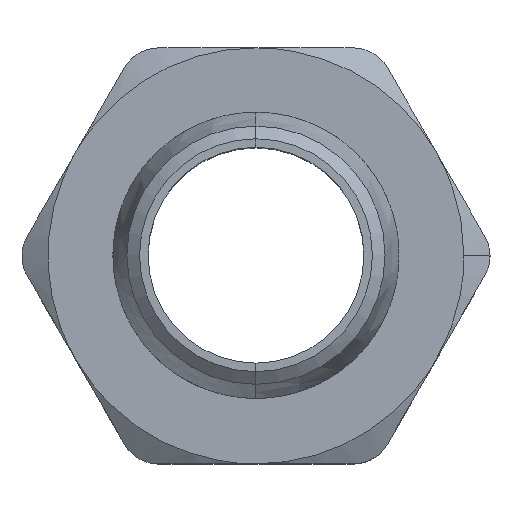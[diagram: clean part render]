
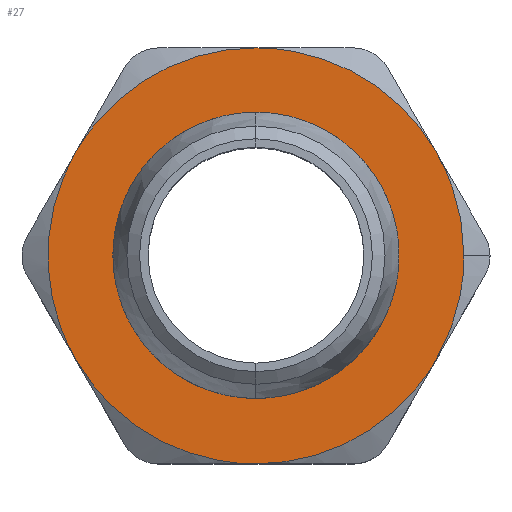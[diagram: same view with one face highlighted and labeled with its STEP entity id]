
A CAD part, top view. The second image highlights one B-rep face of the part: STEP entity #27.
In plain terms, the highlighted planar face has unit normal (0, 0, 1).
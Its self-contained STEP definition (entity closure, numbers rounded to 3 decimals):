
#27=ADVANCED_FACE('',(#89,#75),#896,.T.);
#75=FACE_BOUND('',#151,.T.);
#89=FACE_OUTER_BOUND('',#150,.T.);
#150=EDGE_LOOP('',(#269,#270,#271,#272,#273,#274,#275));
#151=EDGE_LOOP('',(#276,#277));
#269=ORIENTED_EDGE('',*,*,#481,.T.);
#270=ORIENTED_EDGE('',*,*,#482,.T.);
#271=ORIENTED_EDGE('',*,*,#483,.T.);
#272=ORIENTED_EDGE('',*,*,#484,.T.);
#273=ORIENTED_EDGE('',*,*,#485,.T.);
#274=ORIENTED_EDGE('',*,*,#486,.T.);
#275=ORIENTED_EDGE('',*,*,#487,.T.);
#276=ORIENTED_EDGE('',*,*,#593,.F.);
#277=ORIENTED_EDGE('',*,*,#560,.F.);
#481=EDGE_CURVE('',#788,#781,#680,.T.);
#482=EDGE_CURVE('',#781,#778,#681,.T.);
#483=EDGE_CURVE('',#778,#775,#682,.T.);
#484=EDGE_CURVE('',#775,#772,#683,.T.);
#485=EDGE_CURVE('',#772,#787,#684,.T.);
#486=EDGE_CURVE('',#787,#785,#685,.T.);
#487=EDGE_CURVE('',#785,#788,#686,.T.);
#560=EDGE_CURVE('',#824,#842,#618,.T.);
#593=EDGE_CURVE('',#842,#824,#636,.T.);
#618=TRIMMED_CURVE($,#661,(#2286),(#2287),.T.,.CARTESIAN.);
#636=TRIMMED_CURVE($,#679,(#2393),(#2394),.T.,.CARTESIAN.);
#661=CIRCLE('',#1045,7.2);
#679=CIRCLE('',#1063,7.2);
#680=(
BOUNDED_CURVE()
B_SPLINE_CURVE(2,(#1998,#1999,#2000),.UNSPECIFIED.,.F.,.F.)
B_SPLINE_CURVE_WITH_KNOTS((3,3),(0.,6.765),.UNSPECIFIED.)
CURVE()
GEOMETRIC_REPRESENTATION_ITEM()
RATIONAL_B_SPLINE_CURVE((1.,0.966,1.))
REPRESENTATION_ITEM('')
);
#681=(
BOUNDED_CURVE()
B_SPLINE_CURVE(2,(#2001,#2002,#2003),.UNSPECIFIED.,.F.,.F.)
B_SPLINE_CURVE_WITH_KNOTS((3,3),(6.765,20.296),
 .UNSPECIFIED.)
CURVE()
GEOMETRIC_REPRESENTATION_ITEM()
RATIONAL_B_SPLINE_CURVE((1.,0.866,1.))
REPRESENTATION_ITEM('')
);
#682=(
BOUNDED_CURVE()
B_SPLINE_CURVE(2,(#2004,#2005,#2006),.UNSPECIFIED.,.F.,.F.)
B_SPLINE_CURVE_WITH_KNOTS((3,3),(20.296,33.826),
 .UNSPECIFIED.)
CURVE()
GEOMETRIC_REPRESENTATION_ITEM()
RATIONAL_B_SPLINE_CURVE((1.,0.866,1.))
REPRESENTATION_ITEM('')
);
#683=(
BOUNDED_CURVE()
B_SPLINE_CURVE(2,(#2007,#2008,#2009),.UNSPECIFIED.,.F.,.F.)
B_SPLINE_CURVE_WITH_KNOTS((3,3),(33.826,47.357),
 .UNSPECIFIED.)
CURVE()
GEOMETRIC_REPRESENTATION_ITEM()
RATIONAL_B_SPLINE_CURVE((1.,0.866,1.))
REPRESENTATION_ITEM('')
);
#684=(
BOUNDED_CURVE()
B_SPLINE_CURVE(2,(#2010,#2011,#2012),.UNSPECIFIED.,.F.,.F.)
B_SPLINE_CURVE_WITH_KNOTS((3,3),(47.357,60.887),
 .UNSPECIFIED.)
CURVE()
GEOMETRIC_REPRESENTATION_ITEM()
RATIONAL_B_SPLINE_CURVE((1.,0.866,1.))
REPRESENTATION_ITEM('')
);
#685=(
BOUNDED_CURVE()
B_SPLINE_CURVE(2,(#2013,#2014,#2015),.UNSPECIFIED.,.F.,.F.)
B_SPLINE_CURVE_WITH_KNOTS((3,3),(60.887,74.418),
 .UNSPECIFIED.)
CURVE()
GEOMETRIC_REPRESENTATION_ITEM()
RATIONAL_B_SPLINE_CURVE((1.,0.866,1.))
REPRESENTATION_ITEM('')
);
#686=(
BOUNDED_CURVE()
B_SPLINE_CURVE(2,(#2016,#2017,#2018),.UNSPECIFIED.,.F.,.F.)
B_SPLINE_CURVE_WITH_KNOTS((3,3),(74.418,81.183),
 .UNSPECIFIED.)
CURVE()
GEOMETRIC_REPRESENTATION_ITEM()
RATIONAL_B_SPLINE_CURVE((1.,0.966,1.))
REPRESENTATION_ITEM('')
);
#772=VERTEX_POINT('',#1811);
#775=VERTEX_POINT('',#1814);
#778=VERTEX_POINT('',#1817);
#781=VERTEX_POINT('',#1820);
#785=VERTEX_POINT('',#1824);
#787=VERTEX_POINT('',#1826);
#788=VERTEX_POINT('',#1827);
#824=VERTEX_POINT('',#1863);
#842=VERTEX_POINT('',#1881);
#896=PLANE('',#1004);
#1004=AXIS2_PLACEMENT_3D('',#1199,#1080,$);
#1045=AXIS2_PLACEMENT_3D($,#2285,#1145,#1146);
#1063=AXIS2_PLACEMENT_3D($,#2392,#1181,#1182);
#1080=DIRECTION('',(0.,0.,1.));
#1145=DIRECTION('',(0.,0.,1.));
#1146=DIRECTION('',(0.,1.,0.));
#1181=DIRECTION('',(0.,0.,1.));
#1182=DIRECTION('',(0.,-1.,0.));
#1199=CARTESIAN_POINT('',(127840.561,-54424.433,0.));
#1811=CARTESIAN_POINT('',(127843.834,-54440.393,0.));
#1814=CARTESIAN_POINT('',(127843.834,-54429.893,0.));
#1817=CARTESIAN_POINT('',(127852.928,-54424.643,0.));
#1820=CARTESIAN_POINT('',(127862.021,-54429.893,0.));
#1824=CARTESIAN_POINT('',(127862.021,-54440.393,0.));
#1826=CARTESIAN_POINT('',(127852.928,-54445.643,0.));
#1827=CARTESIAN_POINT('',(127863.428,-54435.143,0.));
#1863=CARTESIAN_POINT('',(127852.928,-54427.943,0.));
#1881=CARTESIAN_POINT('',(127852.928,-54442.343,0.));
#1998=CARTESIAN_POINT('',(127863.428,-54435.143,0.));
#1999=CARTESIAN_POINT('',(127863.428,-54432.329,0.));
#2000=CARTESIAN_POINT('',(127862.021,-54429.893,0.));
#2001=CARTESIAN_POINT('',(127862.021,-54429.893,0.));
#2002=CARTESIAN_POINT('',(127858.99,-54424.643,0.));
#2003=CARTESIAN_POINT('',(127852.928,-54424.643,0.));
#2004=CARTESIAN_POINT('',(127852.928,-54424.643,0.));
#2005=CARTESIAN_POINT('',(127846.865,-54424.643,0.));
#2006=CARTESIAN_POINT('',(127843.834,-54429.893,0.));
#2007=CARTESIAN_POINT('',(127843.834,-54429.893,0.));
#2008=CARTESIAN_POINT('',(127840.803,-54435.143,0.));
#2009=CARTESIAN_POINT('',(127843.834,-54440.393,0.));
#2010=CARTESIAN_POINT('',(127843.834,-54440.393,0.));
#2011=CARTESIAN_POINT('',(127846.865,-54445.643,0.));
#2012=CARTESIAN_POINT('',(127852.928,-54445.643,0.));
#2013=CARTESIAN_POINT('',(127852.928,-54445.643,0.));
#2014=CARTESIAN_POINT('',(127858.99,-54445.643,0.));
#2015=CARTESIAN_POINT('',(127862.021,-54440.393,0.));
#2016=CARTESIAN_POINT('',(127862.021,-54440.393,0.));
#2017=CARTESIAN_POINT('',(127863.428,-54437.956,0.));
#2018=CARTESIAN_POINT('',(127863.428,-54435.143,0.));
#2285=CARTESIAN_POINT('',(127852.928,-54435.143,0.));
#2286=CARTESIAN_POINT('',(127852.928,-54427.943,0.));
#2287=CARTESIAN_POINT('',(127852.928,-54442.343,0.));
#2392=CARTESIAN_POINT('',(127852.928,-54435.143,0.));
#2393=CARTESIAN_POINT('',(127852.928,-54442.343,0.));
#2394=CARTESIAN_POINT('',(127852.928,-54427.943,0.));
